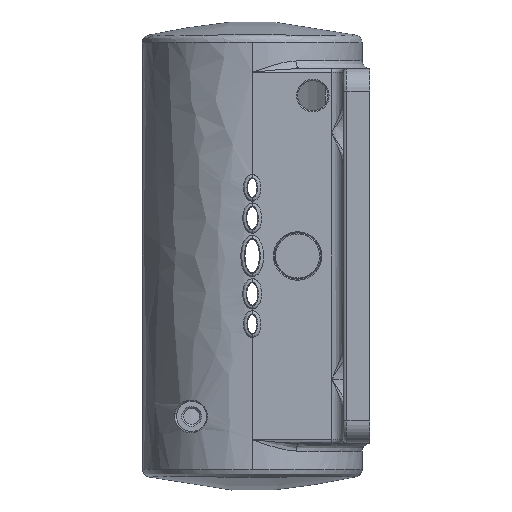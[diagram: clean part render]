
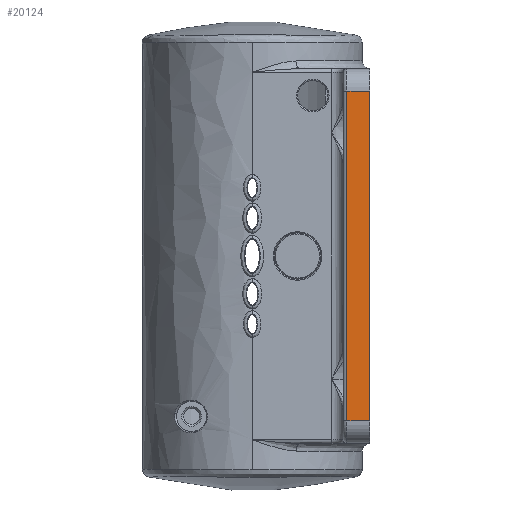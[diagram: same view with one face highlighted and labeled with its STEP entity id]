
A CAD part, left-side view. The second image highlights one B-rep face of the part: STEP entity #20124.
In plain terms, the highlighted planar face has unit normal (-1, 0, 0).
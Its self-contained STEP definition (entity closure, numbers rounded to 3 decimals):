
#1262 = CARTESIAN_POINT ( 'NONE',  ( -53.413, -20.874, 0. ) ) ;
#2361 = DIRECTION ( 'NONE',  ( 0., 0., 1. ) ) ;
#3060 = EDGE_CURVE ( 'NONE', #8892, #12411, #46883, .T. ) ;
#3845 = EDGE_CURVE ( 'NONE', #37141, #8892, #8526, .T. ) ;
#4280 = CARTESIAN_POINT ( 'NONE',  ( -53.413, -23.874, -43.5 ) ) ;
#6387 = ORIENTED_EDGE ( 'NONE', *, *, #32328, .F. ) ;
#7213 = EDGE_LOOP ( 'NONE', ( #13816, #12971, #6387, #14080 ) ) ;
#8526 = LINE ( 'NONE', #1262, #8573 ) ;
#8573 = VECTOR ( 'NONE', #2361, 1000. ) ;
#8892 = VERTEX_POINT ( 'NONE', #35898 ) ;
#11470 = AXIS2_PLACEMENT_3D ( 'NONE', #33122, #49036, #17941 ) ;
#12053 = LINE ( 'NONE', #13961, #21331 ) ;
#12411 = VERTEX_POINT ( 'NONE', #24318 ) ;
#12971 = ORIENTED_EDGE ( 'NONE', *, *, #3845, .F. ) ;
#13816 = ORIENTED_EDGE ( 'NONE', *, *, #3060, .F. ) ;
#13961 = CARTESIAN_POINT ( 'NONE',  ( -53.413, -26.874, -54.45 ) ) ;
#14080 = ORIENTED_EDGE ( 'NONE', *, *, #39557, .F. ) ;
#14121 = DIRECTION ( 'NONE',  ( 0., 0., -1. ) ) ;
#14282 = PLANE ( 'NONE',  #11470 ) ;
#14748 = FACE_OUTER_BOUND ( 'NONE', #7213, .T. ) ;
#17941 = DIRECTION ( 'NONE',  ( 0., 1., 0. ) ) ;
#20124 = ADVANCED_FACE ( 'NONE', ( #14748 ), #14282, .T. ) ;
#21331 = VECTOR ( 'NONE', #14121, 1000. ) ;
#24318 = CARTESIAN_POINT ( 'NONE',  ( -53.413, -26.874, 43.5 ) ) ;
#28945 = VERTEX_POINT ( 'NONE', #34410 ) ;
#31646 = CARTESIAN_POINT ( 'NONE',  ( -53.413, -23.874, 43.5 ) ) ;
#32046 = DIRECTION ( 'NONE',  ( 0., -1., 0. ) ) ;
#32328 = EDGE_CURVE ( 'NONE', #28945, #37141, #39036, .T. ) ;
#33122 = CARTESIAN_POINT ( 'NONE',  ( -53.413, -27.174, 47.85 ) ) ;
#34410 = CARTESIAN_POINT ( 'NONE',  ( -53.413, -26.874, -43.5 ) ) ;
#34481 = DIRECTION ( 'NONE',  ( 0., 1., 0. ) ) ;
#35898 = CARTESIAN_POINT ( 'NONE',  ( -53.413, -20.874, 43.5 ) ) ;
#37141 = VERTEX_POINT ( 'NONE', #49292 ) ;
#39036 = LINE ( 'NONE', #4280, #39144 ) ;
#39144 = VECTOR ( 'NONE', #34481, 1000. ) ;
#39557 = EDGE_CURVE ( 'NONE', #12411, #28945, #12053, .T. ) ;
#46843 = VECTOR ( 'NONE', #32046, 1000. ) ;
#46883 = LINE ( 'NONE', #31646, #46843 ) ;
#49036 = DIRECTION ( 'NONE',  ( -1., 0., 0. ) ) ;
#49292 = CARTESIAN_POINT ( 'NONE',  ( -53.413, -20.874, -43.5 ) ) ;
